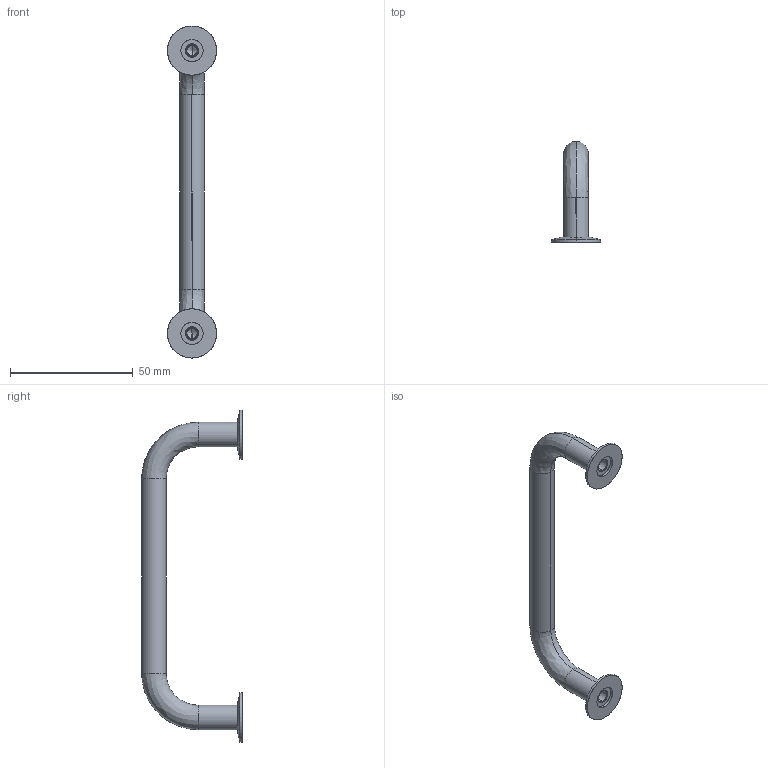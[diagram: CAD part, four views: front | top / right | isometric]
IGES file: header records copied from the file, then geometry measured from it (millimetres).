
Start section: SolidWorks IGES file using analytic representation for surfaces
Global section: file name: C:\Documents and Settings\IANO\Desktop\Temp File\Process pending\PCN pending\78700_v2\78700_v2_20170116_IGES\78700.W0511.igs; native system: SolidWorks 2009; preprocessor: SolidWorks 2009; author: IANO; date: 170310.095839; units: millimetre
Bounding box: 20 x 41 x 135 mm (x, y, z)
Surface area: 7048.7 mm2 (no closed solid volume)
Topology: 0 solids, 0 shells, 52 faces, 808 edges, 804 vertices
Faces by surface type: revolution 38, bspline 14
